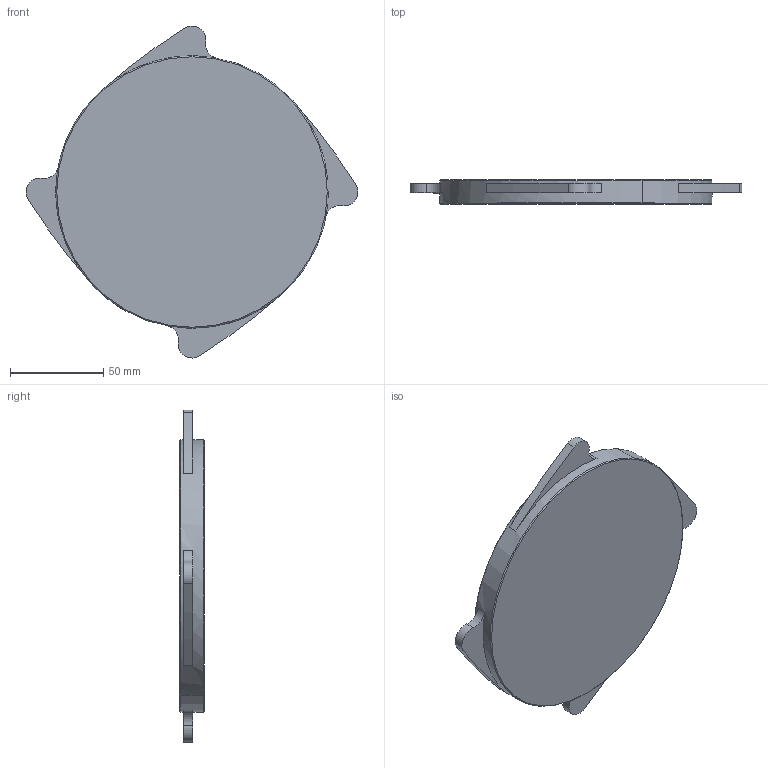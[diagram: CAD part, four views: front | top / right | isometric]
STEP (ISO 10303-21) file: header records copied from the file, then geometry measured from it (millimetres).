
FILE_DESCRIPTION( (''), '2;1');
FILE_NAME ('PC1276.13840.CF-60 100A_12405.stp','2025-12-10T12:54:04',(''),(''),'spGate 20.6.3 (****-****-****-****)','','');
FILE_SCHEMA (('AUTOMOTIVE_DESIGN'));
Length unit declared in the file: millimetre
Bounding box: 177.96 x 13 x 177.96 mm (x, y, z)
Volume: 225969 mm3; surface area: 42897.5 mm2
Topology: 1 solids, 1 shells, 28 faces, 66 edges, 44 vertices
Faces by surface type: cylinder 14, plane 10, bspline 4
Entity records: 1409 total; most frequent: CARTESIAN_POINT 192, DIRECTION 144, ORIENTED_EDGE 132, COLOUR_RGB 95, PRESENTATION_STYLE_ASSIGNMENT 95, STYLED_ITEM 95, EDGE_CURVE 66, DRAUGHTING_PRE_DEFINED_CURVE_FONT 66
